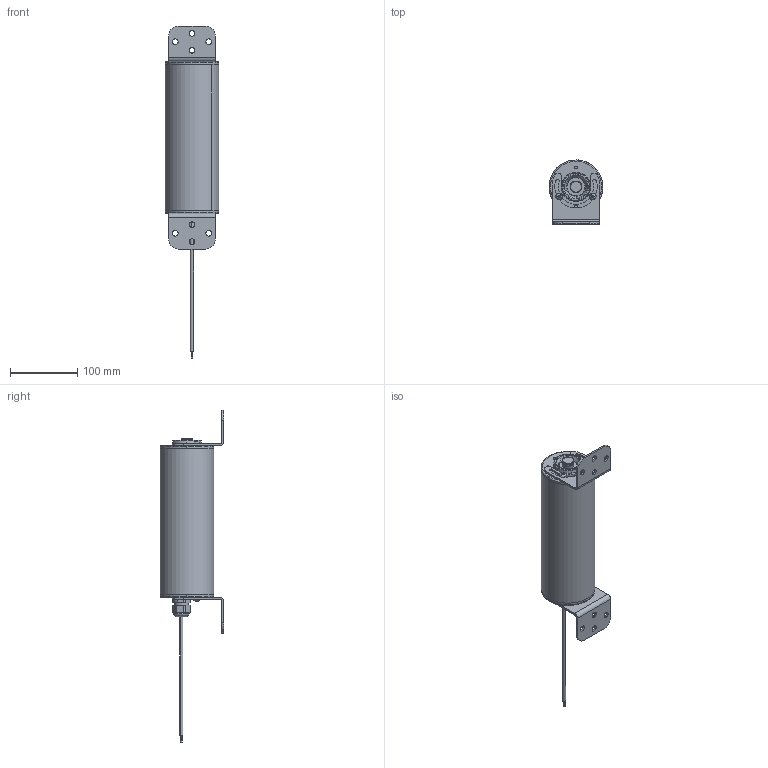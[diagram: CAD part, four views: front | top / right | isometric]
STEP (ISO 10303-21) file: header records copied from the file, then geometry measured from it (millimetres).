
FILE_DESCRIPTION (( 'STEP AP203' ), '1' );
FILE_NAME ('LB9x101.STEP', '2024-08-28T10:11:30', ( '' ), ( '' ), 'SwSTEP 2.0', 'SolidWorks 2021', '' );
FILE_SCHEMA (( 'CONFIG_CONTROL_DESIGN' ));
Length unit declared in the file: millimetre
Products named in the file (7): 000039_M5x10_1; LB9x101; Cable M12 femelle_1; IP69K enclosure adjust_125; 000715_1; 006266-C; IP69K adjust model_125
Assembly tree (10 placements, depth 2):
  LB9x101
    IP69K adjust model_125
    IP69K enclosure adjust_125
    000039_M5x10_1  x4
    000715_1
    Cable M12 femelle_1
    006266-C  x2
Bounding box: 80 x 95 x 493.8 mm (x, y, z)
Volume: 782580.4 mm3; surface area: 222708.5 mm2
Topology: 12 solids, 12 shells, 1217 faces, 3222 edges, 2096 vertices
Faces by surface type: plane 665, cylinder 366, bspline 92, cone 64, torus 26, sphere 4
Entity records: 40306 total; most frequent: CARTESIAN_POINT 11857, ORIENTED_EDGE 5900, DIRECTION 5608, EDGE_CURVE 2950, VERTEX_POINT 1931, AXIS2_PLACEMENT_3D 1907, LINE 1794, VECTOR 1794
